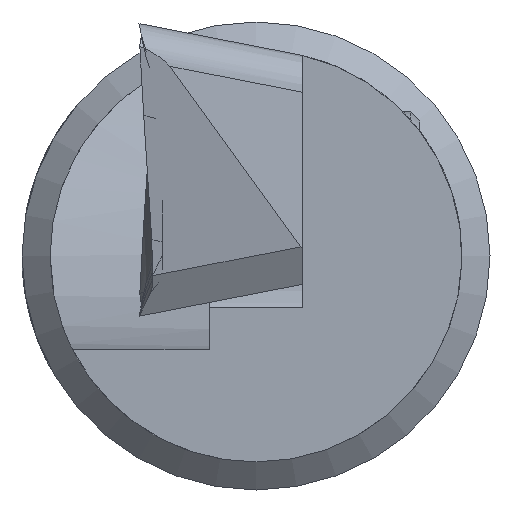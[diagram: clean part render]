
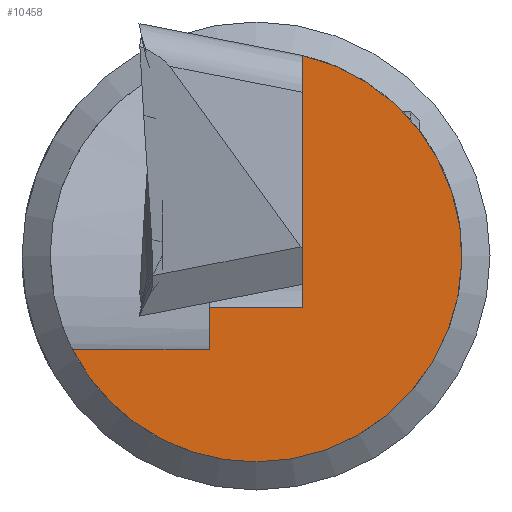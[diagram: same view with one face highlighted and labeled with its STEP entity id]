
A CAD part, left-side view. The second image highlights one B-rep face of the part: STEP entity #10458.
In plain terms, the highlighted planar face has unit normal (-1, 0, 0).
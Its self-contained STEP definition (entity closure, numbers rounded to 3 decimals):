
#405=PLANE('',#11159);
#682=FACE_OUTER_BOUND('',#1288,.T.);
#1288=EDGE_LOOP('',(#7120,#7121,#7122,#7123,#7124,#7125));
#2451=LINE('',#14065,#3262);
#2456=LINE('',#14081,#3267);
#2457=LINE('',#14084,#3268);
#2458=LINE('',#14086,#3269);
#3262=VECTOR('',#11848,10.);
#3267=VECTOR('',#11865,10.);
#3268=VECTOR('',#11868,10.);
#3269=VECTOR('',#11869,10.);
#4074=CIRCLE('',#11160,4.4);
#4075=CIRCLE('',#11161,4.4);
#4355=VERTEX_POINT('',#14057);
#4358=VERTEX_POINT('',#14063);
#4363=VERTEX_POINT('',#14079);
#4364=VERTEX_POINT('',#14083);
#4365=VERTEX_POINT('',#14085);
#4366=VERTEX_POINT('',#14087);
#5457=EDGE_CURVE('',#4355,#4358,#2451,.T.);
#5465=EDGE_CURVE('',#4358,#4363,#2456,.T.);
#5466=EDGE_CURVE('',#4363,#4364,#2457,.T.);
#5467=EDGE_CURVE('',#4364,#4365,#2458,.T.);
#5468=EDGE_CURVE('',#4365,#4366,#4074,.T.);
#5469=EDGE_CURVE('',#4366,#4355,#4075,.T.);
#7120=ORIENTED_EDGE('',*,*,#5457,.T.);
#7121=ORIENTED_EDGE('',*,*,#5465,.T.);
#7122=ORIENTED_EDGE('',*,*,#5466,.T.);
#7123=ORIENTED_EDGE('',*,*,#5467,.T.);
#7124=ORIENTED_EDGE('',*,*,#5468,.T.);
#7125=ORIENTED_EDGE('',*,*,#5469,.T.);
#10458=ADVANCED_FACE('',(#682),#405,.T.);
#11159=AXIS2_PLACEMENT_3D('',#14082,#11866,#11867);
#11160=AXIS2_PLACEMENT_3D('',#14088,#11870,#11871);
#11161=AXIS2_PLACEMENT_3D('',#14089,#11872,#11873);
#11848=DIRECTION('',(0.,0.,-1.));
#11865=DIRECTION('',(0.,1.,0.));
#11866=DIRECTION('center_axis',(-1.,0.,0.));
#11867=DIRECTION('ref_axis',(0.,0.,1.));
#11868=DIRECTION('',(0.,0.,-1.));
#11869=DIRECTION('',(0.,1.,0.));
#11870=DIRECTION('center_axis',(-1.,0.,0.));
#11871=DIRECTION('ref_axis',(0.,0.,1.));
#11872=DIRECTION('center_axis',(-1.,0.,0.));
#11873=DIRECTION('ref_axis',(0.,0.,1.));
#14057=CARTESIAN_POINT('',(-149.39,-1.,4.285));
#14063=CARTESIAN_POINT('',(-149.39,-1.,-1.1));
#14065=CARTESIAN_POINT('',(-149.39,-1.,0.586));
#14079=CARTESIAN_POINT('',(-149.39,1.,-1.1));
#14081=CARTESIAN_POINT('',(-149.39,0.5,-1.1));
#14082=CARTESIAN_POINT('Origin',(-149.39,0.,0.));
#14083=CARTESIAN_POINT('',(-149.39,1.,-2.));
#14084=CARTESIAN_POINT('',(-149.39,1.,0.6));
#14085=CARTESIAN_POINT('',(-149.39,3.919,-2.));
#14086=CARTESIAN_POINT('',(-149.39,2.5,-2.));
#14087=CARTESIAN_POINT('',(-149.39,0.,-4.4));
#14088=CARTESIAN_POINT('Origin',(-149.39,0.,0.));
#14089=CARTESIAN_POINT('Origin',(-149.39,0.,0.));
